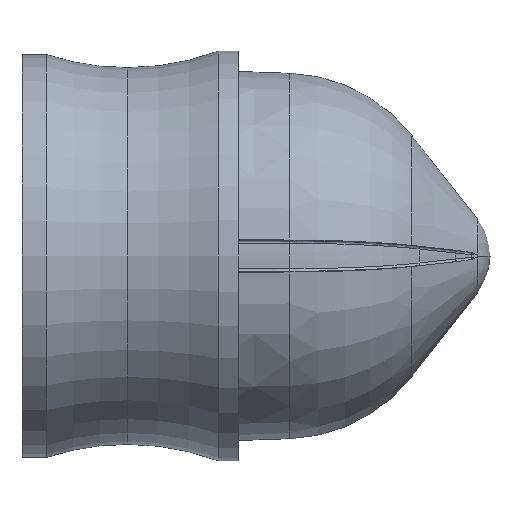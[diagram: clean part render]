
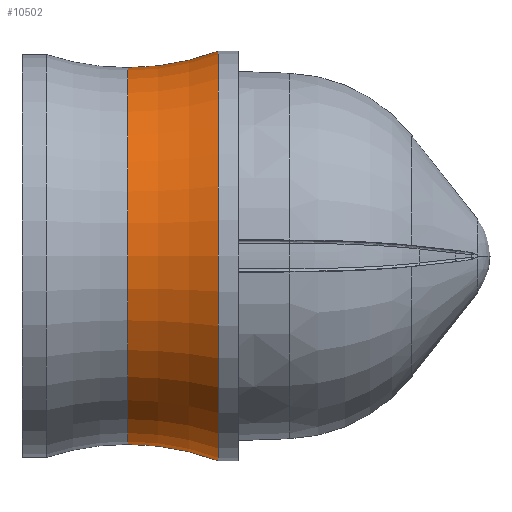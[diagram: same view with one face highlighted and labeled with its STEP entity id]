
A CAD part, left-side view. The second image highlights one B-rep face of the part: STEP entity #10502.
In plain terms, the highlighted toroidal (fillet/blend) face has major radius 14.058 mm and minor radius 8.128 mm.
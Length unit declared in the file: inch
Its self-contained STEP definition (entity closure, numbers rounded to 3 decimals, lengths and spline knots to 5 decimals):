
#35 = DIRECTION ( 'NONE',  ( 0., 0., 1. ) ) ;
#46 = EDGE_CURVE ( 'NONE', #6835, #7806, #669, .T. ) ;
#262 = DIRECTION ( 'NONE',  ( 0., 1., 0. ) ) ;
#384 = CARTESIAN_POINT ( 'NONE',  ( 0., 0.16717, -0.55345 ) ) ;
#498 = AXIS2_PLACEMENT_3D ( 'NONE', #4885, #8845, #35 ) ;
#669 = CIRCLE ( 'NONE', #498, 0.25375 ) ;
#849 = AXIS2_PLACEMENT_3D ( 'NONE', #384, #3639, #6878 ) ;
#1715 = CARTESIAN_POINT ( 'NONE',  ( 0., 0.16717, -0.23345 ) ) ;
#2055 = EDGE_CURVE ( 'NONE', #5901, #6835, #4779, .T. ) ;
#2436 = ORIENTED_EDGE ( 'NONE', *, *, #46, .T. ) ;
#2923 = CARTESIAN_POINT ( 'NONE',  ( 0., 0.16717, 0. ) ) ;
#2955 = DIRECTION ( 'NONE',  ( 0., 0., 1. ) ) ;
#3403 = ORIENTED_EDGE ( 'NONE', *, *, #3861, .F. ) ;
#3407 = CIRCLE ( 'NONE', #7835, 0.23345 ) ;
#3499 = EDGE_CURVE ( 'NONE', #8257, #7806, #7511, .T. ) ;
#3515 = DIRECTION ( 'NONE',  ( 0., 0., 1. ) ) ;
#3639 = DIRECTION ( 'NONE',  ( 1., 0., 0. ) ) ;
#3722 = ORIENTED_EDGE ( 'NONE', *, *, #2055, .T. ) ;
#3861 = EDGE_CURVE ( 'NONE', #5901, #8257, #3407, .T. ) ;
#4010 = DIRECTION ( 'NONE',  ( 0., 1., 0. ) ) ;
#4779 = CIRCLE ( 'NONE', #849, 0.32 ) ;
#4885 = CARTESIAN_POINT ( 'NONE',  ( 0., 0.055, 0. ) ) ;
#4962 = AXIS2_PLACEMENT_3D ( 'NONE', #6998, #8671, #2955 ) ;
#5653 = DIRECTION ( 'NONE',  ( 0., 0., 1. ) ) ;
#5901 = VERTEX_POINT ( 'NONE', #1715 ) ;
#6085 = CARTESIAN_POINT ( 'NONE',  ( 0., 0.16717, 0.23345 ) ) ;
#6835 = VERTEX_POINT ( 'NONE', #7637 ) ;
#6878 = DIRECTION ( 'NONE',  ( 0., 0., -1. ) ) ;
#6998 = CARTESIAN_POINT ( 'NONE',  ( 0., 0.16717, 0.55345 ) ) ;
#7132 = CARTESIAN_POINT ( 'NONE',  ( 0., 0.055, 0.25375 ) ) ;
#7193 = CARTESIAN_POINT ( 'NONE',  ( 0., 0.16717, 0. ) ) ;
#7511 = CIRCLE ( 'NONE', #4962, 0.32 ) ;
#7637 = CARTESIAN_POINT ( 'NONE',  ( 0., 0.055, -0.25375 ) ) ;
#7806 = VERTEX_POINT ( 'NONE', #7132 ) ;
#7835 = AXIS2_PLACEMENT_3D ( 'NONE', #7193, #4010, #5653 ) ;
#8257 = VERTEX_POINT ( 'NONE', #6085 ) ;
#8583 = FACE_OUTER_BOUND ( 'NONE', #9945, .T. ) ;
#8620 = TOROIDAL_SURFACE ( 'NONE', #8793, 0.55345, 0.32 ) ;
#8671 = DIRECTION ( 'NONE',  ( -1., 0., 0. ) ) ;
#8793 = AXIS2_PLACEMENT_3D ( 'NONE', #2923, #262, #3515 ) ;
#8845 = DIRECTION ( 'NONE',  ( 0., 1., 0. ) ) ;
#9055 = ORIENTED_EDGE ( 'NONE', *, *, #3499, .F. ) ;
#9945 = EDGE_LOOP ( 'NONE', ( #3403, #3722, #2436, #9055 ) ) ;
#10502 = ADVANCED_FACE ( 'NONE', ( #8583 ), #8620, .F. ) ;
